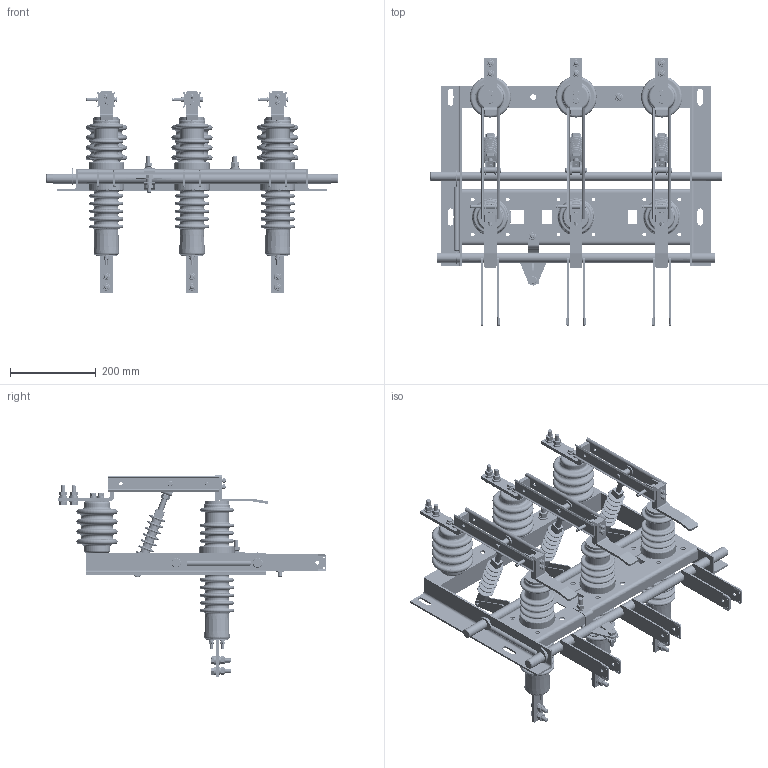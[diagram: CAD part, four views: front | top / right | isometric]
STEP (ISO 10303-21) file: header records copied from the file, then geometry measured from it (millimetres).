
FILE_DESCRIPTION (( 'STEP AP214' ), '1' );
FILE_NAME ('Ðàçúåäèíèòåëü âûñîêîâîëüòíûé ÐÂÔÇ-10630-II-II-ÓÕË2.STEP', '2023-02-06T06:31:38', ( '' ), ( '' ), 'SwSTEP 2.0', 'SolidWorks 2018', '' );
FILE_SCHEMA (( 'AUTOMOTIVE_DESIGN' ));
Products named in the file (1): Ðàçúåäèíèòåëü âûñîêîâîëüòíûé ÐÂÔÇ-10630-II-II-ÓÕË2
Bounding box: 680 x 626.5 x 470 mm (x, y, z)
Volume: 7441179.7 mm3; surface area: 1760760.6 mm2
Topology: 1 solids, 9 shells, 2565 faces, 6600 edges, 4323 vertices
Faces by surface type: plane 1480, cylinder 682, cone 205, torus 198
Full cylindrical faces by diameter (mm): 4 x12, 4.2 x12, 6 x18, 8 x33, 8.2 x12, 8.4 x6, 8.5 x36, 9 x18, 9.404 x3, 9.531 x3, 9.793 x3, 10 x14, 12 x26, 12.664 x2, 12.888 x2, 13 x12, 13.14 x1, 13.43 x3, 13.557 x1, 13.583 x3, 13.926 x3, 15.2 x3, 16 x6, 17.1 x3, 20 x26, 22 x20, 22.2 x1, 22.38 x1, 23.42 x4, 24 x4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
Entity records: 98919 total; most frequent: CARTESIAN_POINT 41738, DIRECTION 11234, ORIENTED_EDGE 11204, EDGE_CURVE 5602, AXIS2_PLACEMENT_3D 4310, VERTEX_POINT 4021, EDGE_LOOP 3751, FACE_OUTER_BOUND 3077
